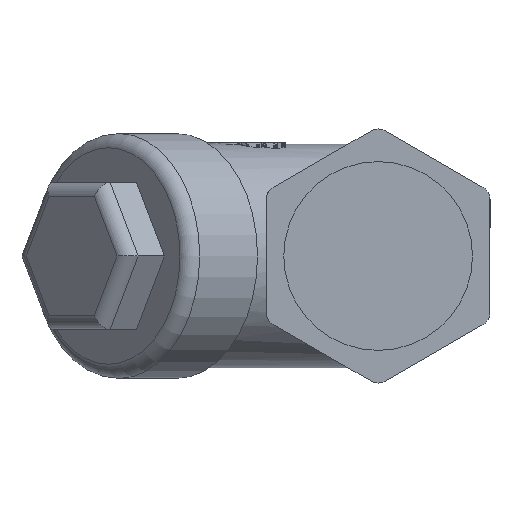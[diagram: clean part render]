
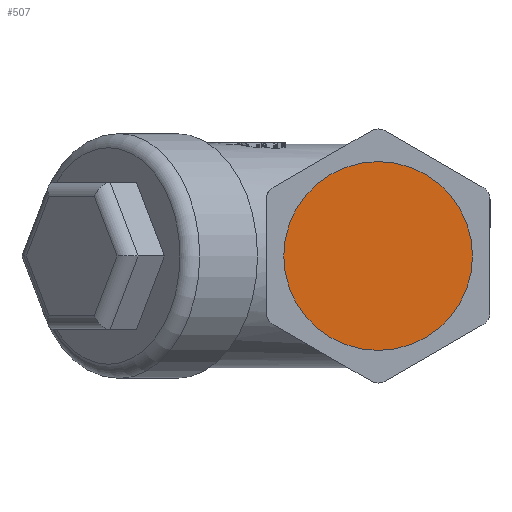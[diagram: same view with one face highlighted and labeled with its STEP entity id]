
A CAD part, left-side view. The second image highlights one B-rep face of the part: STEP entity #507.
In plain terms, the highlighted planar face has unit normal (-1, 0, 0).
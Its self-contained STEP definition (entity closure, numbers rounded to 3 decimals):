
#507=ADVANCED_FACE('',(#9248),#9250,.F.);
#9248=FACE_BOUND('',#9249,.T.);
#9249=EDGE_LOOP('',(#16130));
#9250=PLANE('',#9251);
#9251=AXIS2_PLACEMENT_3D('',#9252,#9253,#9254);
#9252=CARTESIAN_POINT('',(190.113,15.712,0.));
#9253=DIRECTION('',(1.,0.,0.));
#9254=DIRECTION('',(0.,0.,-1.));
#16130=ORIENTED_EDGE('',*,*,#21200,.F.);
#21200=EDGE_CURVE('',#24688,#24688,#24689,.T.);
#24688=VERTEX_POINT('',#32304);
#24689=CIRCLE('',#32305,13.5);
#32304=CARTESIAN_POINT('',(190.113,2.212,0.));
#32305=AXIS2_PLACEMENT_3D('',#32306,#32307,#32308);
#32306=CARTESIAN_POINT('',(190.113,15.712,0.));
#32307=DIRECTION('',(1.,0.,0.));
#32308=DIRECTION('',(0.,-1.,0.));
